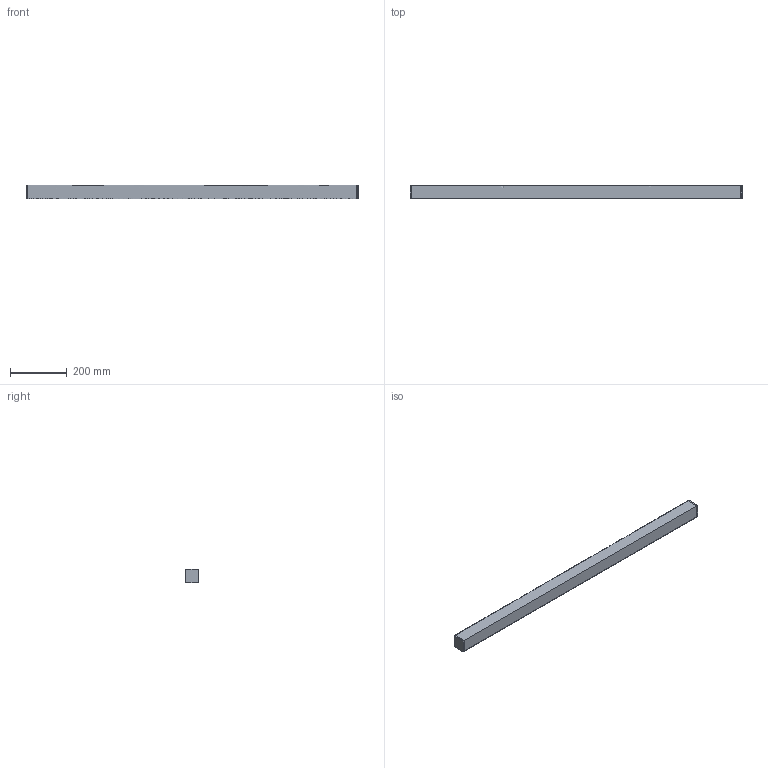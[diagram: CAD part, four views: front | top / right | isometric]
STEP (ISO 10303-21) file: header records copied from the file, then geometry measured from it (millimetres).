
FILE_DESCRIPTION(/* description */ (''),/* implementation_level */ '2;1');
FILE_NAME(/* name */ 'SEM.000244',/* time_stamp */ '2024-01-16T18:17:29+01:00',/* author */ (''),/* organization */ (''),/* preprocessor_version */ 'ST-DEVELOPER v16.5',/* originating_system */ 'Rhino 7.35',/* authorisation */ '');
FILE_SCHEMA (('CONFIG_CONTROL_DESIGN'));
Length unit declared in the file: millimetre
Products named in the file (1): Document
Bounding box: 1170 x 45 x 46.8 mm (x, y, z)
Surface area: 218652.9 mm2 (no closed solid volume)
Topology: 0 solids, 3 shells, 36 faces, 81 edges, 47 vertices
Faces by surface type: cylinder 16, bspline 10, plane 10
Entity records: 1358 total; most frequent: CARTESIAN_POINT 760, ORIENTED_EDGE 139, EDGE_CURVE 81, VERTEX_POINT 47, B_SPLINE_CURVE_WITH_KNOTS 43, EDGE_LOOP 39, ADVANCED_FACE 36, FACE_OUTER_BOUND 36
